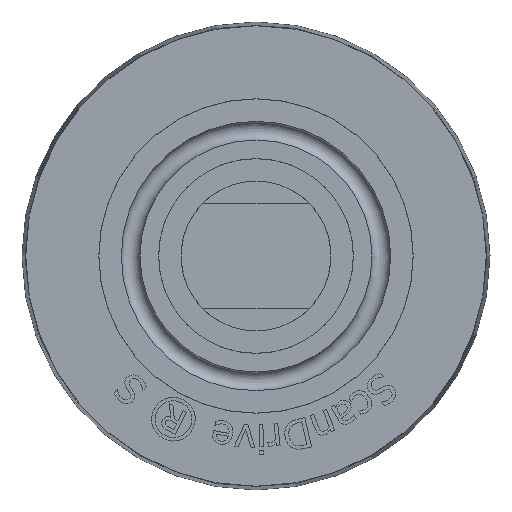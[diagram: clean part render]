
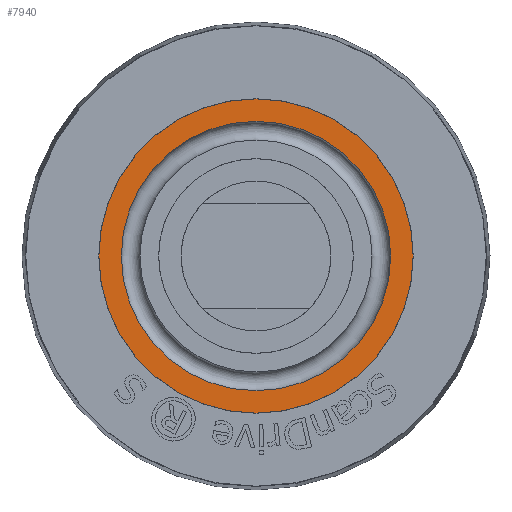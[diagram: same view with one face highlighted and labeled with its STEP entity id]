
A CAD part, left-side view. The second image highlights one B-rep face of the part: STEP entity #7940.
In plain terms, the highlighted planar face has unit normal (-1, 0, 0).
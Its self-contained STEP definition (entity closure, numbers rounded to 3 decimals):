
#60=CIRCLE('',#8324,17.99);
#61=CIRCLE('',#8326,20.99);
#151=FACE_BOUND('',#1490,.T.);
#1002=FACE_OUTER_BOUND('',#1489,.T.);
#1489=EDGE_LOOP('',(#6306));
#1490=EDGE_LOOP('',(#6307));
#3608=VERTEX_POINT('',#12298);
#3609=VERTEX_POINT('',#12301);
#4583=EDGE_CURVE('',#3608,#3608,#60,.T.);
#4584=EDGE_CURVE('',#3609,#3609,#61,.T.);
#6306=ORIENTED_EDGE('',*,*,#4584,.T.);
#6307=ORIENTED_EDGE('',*,*,#4583,.F.);
#7598=PLANE('',#8325);
#7940=ADVANCED_FACE('',(#1002,#151),#7598,.T.);
#8324=AXIS2_PLACEMENT_3D('',#12299,#9143,#9144);
#8325=AXIS2_PLACEMENT_3D('',#12300,#9145,#9146);
#8326=AXIS2_PLACEMENT_3D('',#12302,#9147,#9148);
#9143=DIRECTION('center_axis',(-1.,0.,0.));
#9144=DIRECTION('ref_axis',(0.,0.,1.));
#9145=DIRECTION('center_axis',(-1.,0.,0.));
#9146=DIRECTION('ref_axis',(0.,0.,1.));
#9147=DIRECTION('center_axis',(-1.,0.,0.));
#9148=DIRECTION('ref_axis',(0.,0.,1.));
#12298=CARTESIAN_POINT('',(-200.,0.,17.99));
#12299=CARTESIAN_POINT('Origin',(-200.,0.,0.));
#12300=CARTESIAN_POINT('Origin',(-200.,0.,17.99));
#12301=CARTESIAN_POINT('',(-200.,0.,20.99));
#12302=CARTESIAN_POINT('Origin',(-200.,0.,0.));
